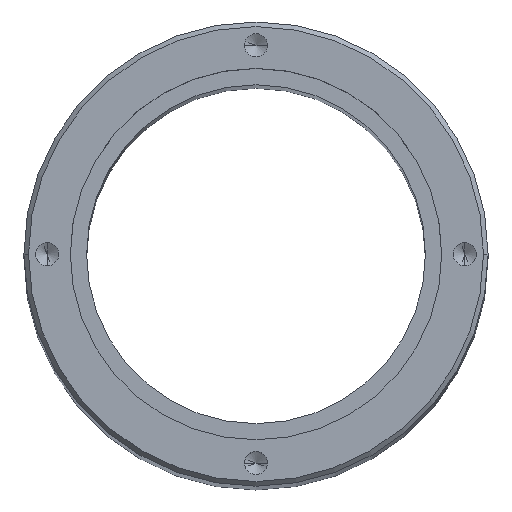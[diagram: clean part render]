
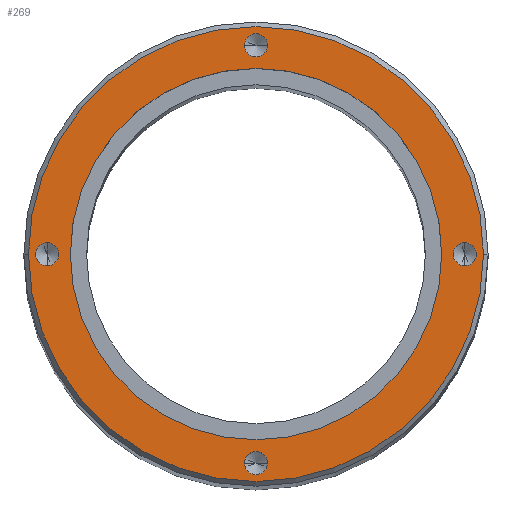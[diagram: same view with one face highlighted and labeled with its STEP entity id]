
A CAD part, top view. The second image highlights one B-rep face of the part: STEP entity #269.
In plain terms, the highlighted planar face has unit normal (0, 0, 1).
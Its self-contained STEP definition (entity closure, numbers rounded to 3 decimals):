
#23 = CARTESIAN_POINT ( 'NONE',  ( -45., 0., 470. ) ) ;
#31 = DIRECTION ( 'NONE',  ( 0., 0., 1. ) ) ;
#36 = VERTEX_POINT ( 'NONE', #367 ) ;
#45 = FACE_BOUND ( 'NONE', #405, .T. ) ;
#46 = CIRCLE ( 'NONE', #686, 2.5 ) ;
#49 = PLANE ( 'NONE',  #294 ) ;
#71 = CARTESIAN_POINT ( 'NONE',  ( 0., 45., 470. ) ) ;
#73 = AXIS2_PLACEMENT_3D ( 'NONE', #669, #744, #806 ) ;
#93 = DIRECTION ( 'NONE',  ( 0., 1., 0. ) ) ;
#95 = DIRECTION ( 'NONE',  ( 0., -1., 0. ) ) ;
#104 = DIRECTION ( 'NONE',  ( 0., 0., 1. ) ) ;
#108 = CARTESIAN_POINT ( 'NONE',  ( 40., 0., 470. ) ) ;
#120 = DIRECTION ( 'NONE',  ( 0., 0., 1. ) ) ;
#134 = AXIS2_PLACEMENT_3D ( 'NONE', #771, #775, #545 ) ;
#163 = CARTESIAN_POINT ( 'NONE',  ( 2.5, -45., 470. ) ) ;
#167 = EDGE_CURVE ( 'NONE', #884, #412, #742, .T. ) ;
#170 = CARTESIAN_POINT ( 'NONE',  ( 45., 0., 470. ) ) ;
#176 = ORIENTED_EDGE ( 'NONE', *, *, #167, .F. ) ;
#186 = DIRECTION ( 'NONE',  ( -1., 0., 0. ) ) ;
#187 = EDGE_CURVE ( 'NONE', #343, #36, #667, .T. ) ;
#193 = DIRECTION ( 'NONE',  ( 1., 0., 0. ) ) ;
#194 = EDGE_CURVE ( 'NONE', #359, #385, #490, .T. ) ;
#203 = CARTESIAN_POINT ( 'NONE',  ( -2.5, -45., 470. ) ) ;
#206 = CIRCLE ( 'NONE', #682, 2.5 ) ;
#208 = ORIENTED_EDGE ( 'NONE', *, *, #502, .T. ) ;
#209 = CIRCLE ( 'NONE', #728, 2.5 ) ;
#218 = ORIENTED_EDGE ( 'NONE', *, *, #304, .F. ) ;
#228 = CIRCLE ( 'NONE', #782, 2.5 ) ;
#230 = DIRECTION ( 'NONE',  ( 0., 0., 1. ) ) ;
#231 = EDGE_LOOP ( 'NONE', ( #218, #235 ) ) ;
#234 = EDGE_CURVE ( 'NONE', #584, #716, #206, .T. ) ;
#235 = ORIENTED_EDGE ( 'NONE', *, *, #428, .F. ) ;
#251 = EDGE_LOOP ( 'NONE', ( #679, #176 ) ) ;
#252 = FACE_OUTER_BOUND ( 'NONE', #896, .T. ) ;
#256 = CARTESIAN_POINT ( 'NONE',  ( 0., 0., 470. ) ) ;
#269 = ADVANCED_FACE ( 'NONE', ( #252, #538, #45, #326, #902, #548 ), #49, .T. ) ;
#294 = AXIS2_PLACEMENT_3D ( 'NONE', #763, #905, #193 ) ;
#296 = EDGE_CURVE ( 'NONE', #412, #884, #309, .T. ) ;
#304 = EDGE_CURVE ( 'NONE', #485, #925, #209, .T. ) ;
#309 = CIRCLE ( 'NONE', #536, 2.5 ) ;
#326 = FACE_BOUND ( 'NONE', #231, .T. ) ;
#331 = EDGE_CURVE ( 'NONE', #496, #618, #878, .T. ) ;
#342 = AXIS2_PLACEMENT_3D ( 'NONE', #903, #484, #561 ) ;
#343 = VERTEX_POINT ( 'NONE', #108 ) ;
#358 = AXIS2_PLACEMENT_3D ( 'NONE', #170, #451, #519 ) ;
#359 = VERTEX_POINT ( 'NONE', #678 ) ;
#367 = CARTESIAN_POINT ( 'NONE',  ( -40., 0., 470. ) ) ;
#368 = ORIENTED_EDGE ( 'NONE', *, *, #495, .F. ) ;
#381 = DIRECTION ( 'NONE',  ( 0., 1., 0. ) ) ;
#382 = ORIENTED_EDGE ( 'NONE', *, *, #518, .F. ) ;
#385 = VERTEX_POINT ( 'NONE', #609 ) ;
#405 = EDGE_LOOP ( 'NONE', ( #755, #382 ) ) ;
#406 = CARTESIAN_POINT ( 'NONE',  ( 0., 0., 470. ) ) ;
#412 = VERTEX_POINT ( 'NONE', #876 ) ;
#413 = AXIS2_PLACEMENT_3D ( 'NONE', #406, #606, #620 ) ;
#426 = CARTESIAN_POINT ( 'NONE',  ( 45., 2.5, 470. ) ) ;
#428 = EDGE_CURVE ( 'NONE', #925, #485, #494, .T. ) ;
#451 = DIRECTION ( 'NONE',  ( 0., 0., 1. ) ) ;
#464 = CARTESIAN_POINT ( 'NONE',  ( 2.5, 45., 470. ) ) ;
#484 = DIRECTION ( 'NONE',  ( 0., 0., 1. ) ) ;
#485 = VERTEX_POINT ( 'NONE', #900 ) ;
#490 = CIRCLE ( 'NONE', #697, 49. ) ;
#492 = EDGE_LOOP ( 'NONE', ( #684, #368 ) ) ;
#494 = CIRCLE ( 'NONE', #358, 2.5 ) ;
#495 = EDGE_CURVE ( 'NONE', #36, #343, #718, .T. ) ;
#496 = VERTEX_POINT ( 'NONE', #203 ) ;
#502 = EDGE_CURVE ( 'NONE', #385, #359, #700, .T. ) ;
#518 = EDGE_CURVE ( 'NONE', #618, #496, #46, .T. ) ;
#519 = DIRECTION ( 'NONE',  ( 0., -1., 0. ) ) ;
#524 = CARTESIAN_POINT ( 'NONE',  ( 45., 0., 470. ) ) ;
#536 = AXIS2_PLACEMENT_3D ( 'NONE', #23, #31, #381 ) ;
#538 = FACE_BOUND ( 'NONE', #251, .T. ) ;
#545 = DIRECTION ( 'NONE',  ( 1., 0., 0. ) ) ;
#548 = FACE_BOUND ( 'NONE', #492, .T. ) ;
#561 = DIRECTION ( 'NONE',  ( 1., 0., 0. ) ) ;
#584 = VERTEX_POINT ( 'NONE', #464 ) ;
#606 = DIRECTION ( 'NONE',  ( 0., 0., 1. ) ) ;
#609 = CARTESIAN_POINT ( 'NONE',  ( 49., 0., 470. ) ) ;
#612 = DIRECTION ( 'NONE',  ( 0., 0., 1. ) ) ;
#618 = VERTEX_POINT ( 'NONE', #163 ) ;
#620 = DIRECTION ( 'NONE',  ( 1., 0., 0. ) ) ;
#623 = DIRECTION ( 'NONE',  ( 1., 0., 0. ) ) ;
#667 = CIRCLE ( 'NONE', #413, 40. ) ;
#669 = CARTESIAN_POINT ( 'NONE',  ( 0., -45., 470. ) ) ;
#678 = CARTESIAN_POINT ( 'NONE',  ( -49., 0., 470. ) ) ;
#679 = ORIENTED_EDGE ( 'NONE', *, *, #296, .F. ) ;
#682 = AXIS2_PLACEMENT_3D ( 'NONE', #685, #612, #623 ) ;
#684 = ORIENTED_EDGE ( 'NONE', *, *, #187, .F. ) ;
#685 = CARTESIAN_POINT ( 'NONE',  ( 0., 45., 470. ) ) ;
#686 = AXIS2_PLACEMENT_3D ( 'NONE', #915, #120, #186 ) ;
#697 = AXIS2_PLACEMENT_3D ( 'NONE', #256, #911, #828 ) ;
#698 = EDGE_LOOP ( 'NONE', ( #719, #751 ) ) ;
#700 = CIRCLE ( 'NONE', #134, 49. ) ;
#716 = VERTEX_POINT ( 'NONE', #813 ) ;
#718 = CIRCLE ( 'NONE', #342, 40. ) ;
#719 = ORIENTED_EDGE ( 'NONE', *, *, #234, .F. ) ;
#728 = AXIS2_PLACEMENT_3D ( 'NONE', #524, #104, #95 ) ;
#742 = CIRCLE ( 'NONE', #863, 2.5 ) ;
#744 = DIRECTION ( 'NONE',  ( 0., 0., 1. ) ) ;
#751 = ORIENTED_EDGE ( 'NONE', *, *, #904, .F. ) ;
#755 = ORIENTED_EDGE ( 'NONE', *, *, #331, .F. ) ;
#763 = CARTESIAN_POINT ( 'NONE',  ( 0., 0., 470. ) ) ;
#771 = CARTESIAN_POINT ( 'NONE',  ( 0., 0., 470. ) ) ;
#775 = DIRECTION ( 'NONE',  ( 0., 0., 1. ) ) ;
#780 = DIRECTION ( 'NONE',  ( 0., 0., 1. ) ) ;
#782 = AXIS2_PLACEMENT_3D ( 'NONE', #71, #780, #924 ) ;
#806 = DIRECTION ( 'NONE',  ( -1., 0., 0. ) ) ;
#813 = CARTESIAN_POINT ( 'NONE',  ( -2.5, 45., 470. ) ) ;
#820 = ORIENTED_EDGE ( 'NONE', *, *, #194, .T. ) ;
#828 = DIRECTION ( 'NONE',  ( 1., 0., 0. ) ) ;
#849 = CARTESIAN_POINT ( 'NONE',  ( -45., -2.5, 470. ) ) ;
#863 = AXIS2_PLACEMENT_3D ( 'NONE', #872, #230, #93 ) ;
#872 = CARTESIAN_POINT ( 'NONE',  ( -45., 0., 470. ) ) ;
#876 = CARTESIAN_POINT ( 'NONE',  ( -45., 2.5, 470. ) ) ;
#878 = CIRCLE ( 'NONE', #73, 2.5 ) ;
#884 = VERTEX_POINT ( 'NONE', #849 ) ;
#896 = EDGE_LOOP ( 'NONE', ( #820, #208 ) ) ;
#900 = CARTESIAN_POINT ( 'NONE',  ( 45., -2.5, 470. ) ) ;
#902 = FACE_BOUND ( 'NONE', #698, .T. ) ;
#903 = CARTESIAN_POINT ( 'NONE',  ( 0., 0., 470. ) ) ;
#904 = EDGE_CURVE ( 'NONE', #716, #584, #228, .T. ) ;
#905 = DIRECTION ( 'NONE',  ( 0., 0., 1. ) ) ;
#911 = DIRECTION ( 'NONE',  ( 0., 0., 1. ) ) ;
#915 = CARTESIAN_POINT ( 'NONE',  ( 0., -45., 470. ) ) ;
#924 = DIRECTION ( 'NONE',  ( 1., 0., 0. ) ) ;
#925 = VERTEX_POINT ( 'NONE', #426 ) ;
